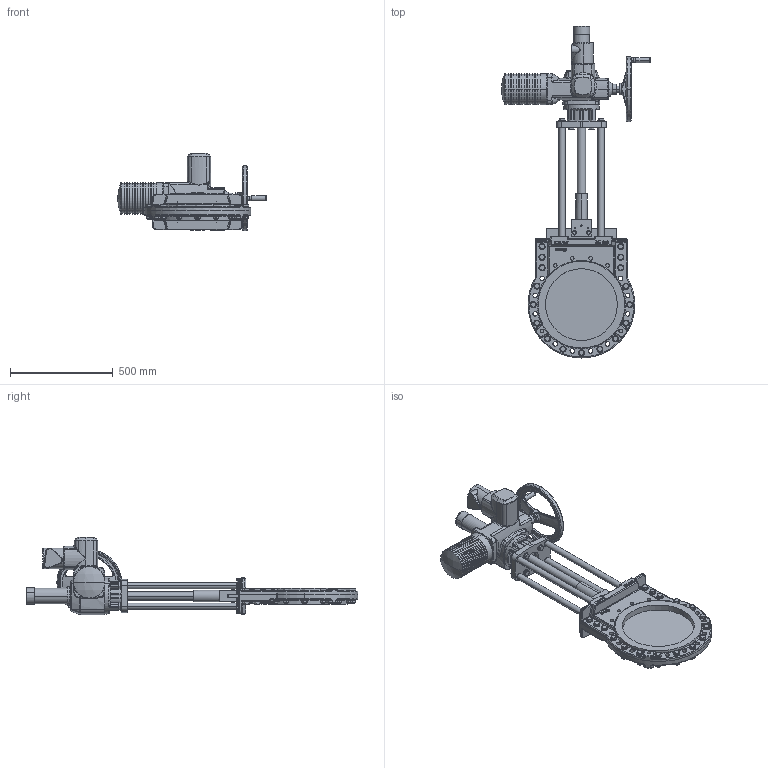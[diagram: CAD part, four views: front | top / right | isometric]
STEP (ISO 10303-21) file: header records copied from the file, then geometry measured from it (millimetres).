
FILE_DESCRIPTION (( 'STEP AP214' ), '1' );
FILE_NAME ('MGE DN 0350 PN10 (SA 14.2).STEP', '2015-09-23T08:41:35', ( 'admin' ), ( 'Hewlett-Packard Company' ), 'SwSTEP 2.0', 'SolidWorks 2013', '' );
FILE_SCHEMA (( 'AUTOMOTIVE_DESIGN' ));
Length unit declared in the file: millimetre
Products named in the file (1): MGE DN 0350 PN10 (SA 14.2)
Bounding box: 725 x 1617.5 x 376.5 mm (x, y, z)
Volume: 33251418.3 mm3; surface area: 2433505.5 mm2
Topology: 90 solids, 103 shells, 3304 faces, 7642 edges, 4623 vertices
Faces by surface type: plane 1140, cylinder 954, cone 605, bspline 333, torus 244, sphere 28
Entity records: 156435 total; most frequent: CARTESIAN_POINT 46153, ORIENTED_EDGE 15156, DIRECTION 15153, EDGE_CURVE 7578, AXIS2_PLACEMENT_3D 6159, VERTEX_POINT 4623, EDGE_LOOP 3669, UNCERTAINTY_MEASURE_WITH_UNIT 3394
